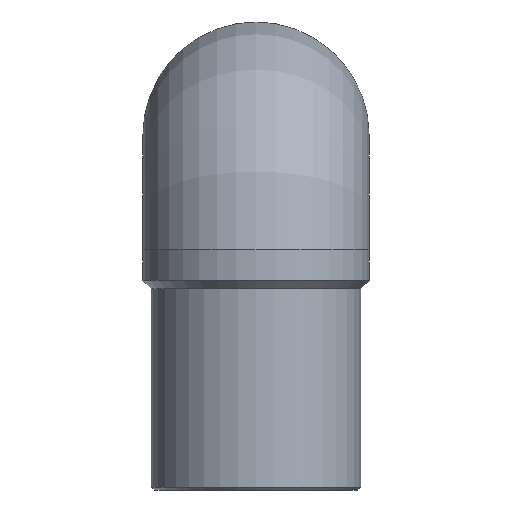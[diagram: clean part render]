
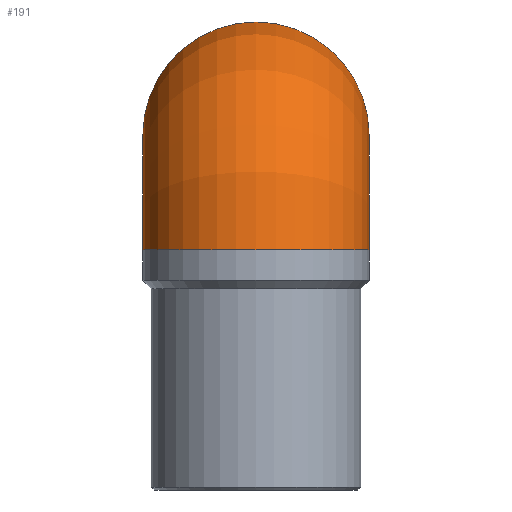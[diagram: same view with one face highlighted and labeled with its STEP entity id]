
A CAD part, left-side view. The second image highlights one B-rep face of the part: STEP entity #191.
In plain terms, the highlighted toroidal (fillet/blend) face has major radius 41 mm and minor radius 40.5 mm.
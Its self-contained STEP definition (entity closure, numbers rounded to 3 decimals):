
#20=TOROIDAL_SURFACE('',#231,41.,40.5);
#59=ORIENTED_EDGE('',*,*,#77,.F.);
#60=ORIENTED_EDGE('',*,*,#79,.T.);
#77=EDGE_CURVE('',#96,#96,#114,.F.);
#79=EDGE_CURVE('',#98,#98,#116,.F.);
#96=VERTEX_POINT('',#312);
#98=VERTEX_POINT('',#318);
#114=CIRCLE('',#217,40.5);
#116=CIRCLE('',#221,40.5);
#142=EDGE_LOOP('',(#59));
#143=EDGE_LOOP('',(#60));
#169=FACE_BOUND('',#142,.T.);
#170=FACE_BOUND('',#143,.T.);
#191=ADVANCED_FACE('',(#169,#170),#20,.T.);
#217=AXIS2_PLACEMENT_3D('',#311,#256,#257);
#221=AXIS2_PLACEMENT_3D('',#317,#264,#265);
#231=AXIS2_PLACEMENT_3D('',#359,#284,#285);
#256=DIRECTION('',(-1.,0.,0.));
#257=DIRECTION('',(0.,0.,-1.));
#264=DIRECTION('',(0.,0.,-1.));
#265=DIRECTION('',(1.,0.,0.));
#284=DIRECTION('',(0.,1.,0.));
#285=DIRECTION('',(0.,0.,1.));
#311=CARTESIAN_POINT('',(41.,0.,127.));
#312=CARTESIAN_POINT('',(41.,0.,86.5));
#317=CARTESIAN_POINT('',(0.,0.,86.));
#318=CARTESIAN_POINT('',(40.5,0.,86.));
#359=CARTESIAN_POINT('',(41.,0.,86.));
